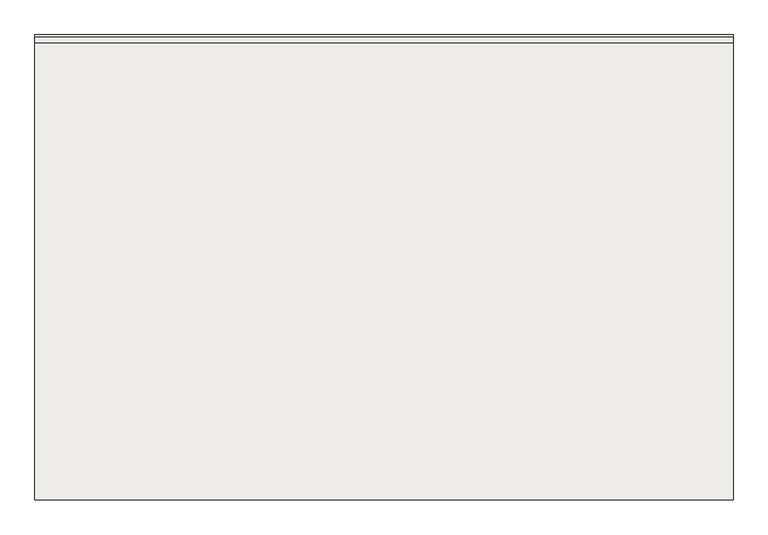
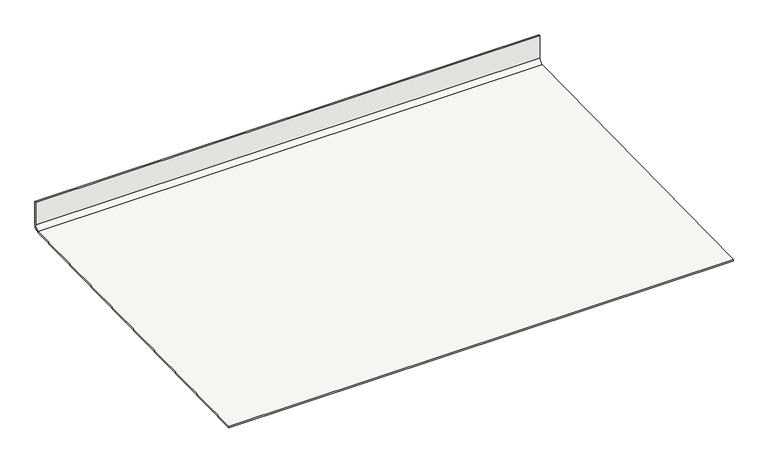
"""IFC4 building model written with IfcOpenShell, lengths in millimetres: slab geometry, Lamina impermeable : Lamina impermeable."""

from ifc_helpers import new_model, si_unit, point, frame, frame_2d, origin, place, context, project, spatial, polyline, circle_curve, trimmed, segment, composite_curve, outline, extrude, source, transform, mapped, element, save


def slab_5167fee6(model_context):
    return source(origin(), model_context, "Body", "SweptSolid", [
        extrude(outline(composite_curve([segment(trimmed(circle_curve(frame_2d((15914.5302953, 120.0007972)), 20.0), [point((15934.5302953, 120.0007972))], [point((15914.5781423, 100.0008544))], False, "CARTESIAN"), True, "CONTINUOUS"), segment(polyline([(15914.5781423, 100.0008544), (14794.5302953, 80.0), (14794.5302953, 85.0007971), (15914.5302979, 105.0007972)]), True, "CONTINUOUS"), segment(trimmed(circle_curve(frame_2d((15914.5302953, 120.0007972)), 15.0), [point((15914.5302979, 105.0007972))], [point((15929.5302953, 120.0007972))], True, "CARTESIAN"), True, "CONTINUOUS"), segment(polyline([(15929.5302953, 120.0007972), (15929.5302953, 200.0), (15934.5302953, 200.0), (15934.5302953, 120.0007972)]), True, "CONTINUOUS")], self_intersect=False)), frame((6177.8569116, 0.0, 0.0), z_axis=(1.0, 0.0, 0.0), x_axis=(0.0, 1.0, 0.0)), (0.0, 0.0, 1.0), 1709.8633547),
    ])


if __name__ == "__main__":
    model = new_model("IFC4")
    model_context = context("Model", 3, world=origin())
    ifc_project = project(units=[si_unit("LENGTHUNIT", "METRE", prefix="MILLI")], contexts=[model_context])
    site = spatial("IfcSite", under=ifc_project)
    building = spatial("IfcBuilding", under=site)
    placement = place(None, origin())
    slab_shape = slab_5167fee6(model_context)
    element("IfcSlab", 1, ObjectType="Lamina impermeable : Lamina impermeable", at=placement, inside=building, context=model_context, shape_type="MappedRepresentation", body=[
        mapped(slab_shape, transform((0.0, 0.0, 0.0), x_axis=(1.0, 0.0, 0.0), y_axis=(0.0, 1.0, 0.0), z_axis=(0.0, 0.0, 1.0))),
    ])
    save(model, "model.ifc")
